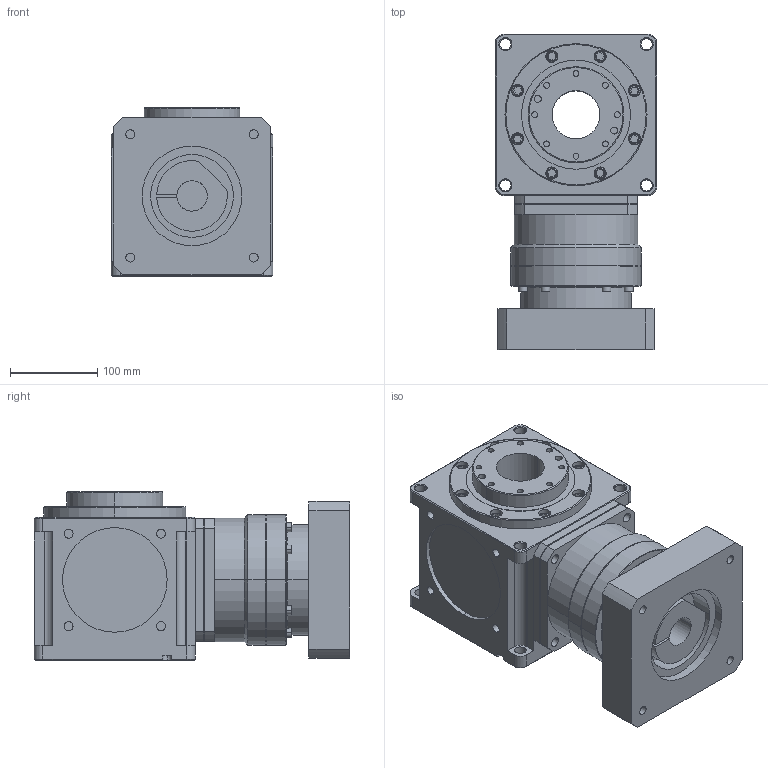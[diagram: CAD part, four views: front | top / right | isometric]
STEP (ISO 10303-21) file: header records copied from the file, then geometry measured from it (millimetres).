
FILE_DESCRIPTION (( 'STEP AP214' ), '1' );
FILE_NAME ('CCW185A-L1(6-20)-RF 35-114.3-200-M12.STEP', '2025-05-26T05:23:16', ( '微软用户' ), ( '微软中国' ), 'SwSTEP 2.0', 'SolidWorks 2024', '' );
FILE_SCHEMA (( 'AUTOMOTIVE_DESIGN' ));
Length unit declared in the file: millimetre
Products named in the file (3): VRB-142-L1-S2-P1 35-114.3-200-M12; CCW185A-002-RF箱体; CCW185A-L1(6-20)-RF 35-114.3-200-M12
Assembly tree (2 placements, depth 2):
  CCW185A-L1(6-20)-RF 35-114.3-200-M12
    VRB-142-L1-S2-P1 35-114.3-200-M12
    CCW185A-002-RF箱体
Bounding box: 185 x 362 x 193 mm (x, y, z)
Volume: 8659024.1 mm3; surface area: 481342.8 mm2
Topology: 2 solids, 2 shells, 550 faces, 1289 edges, 817 vertices
Faces by surface type: plane 269, cylinder 197, cone 56, torus 28
Entity records: 16034 total; most frequent: DIRECTION 2928, CARTESIAN_POINT 2842, ORIENTED_EDGE 2574, EDGE_CURVE 1287, AXIS2_PLACEMENT_3D 1113, VERTEX_POINT 817, VECTOR 702, LINE 702
